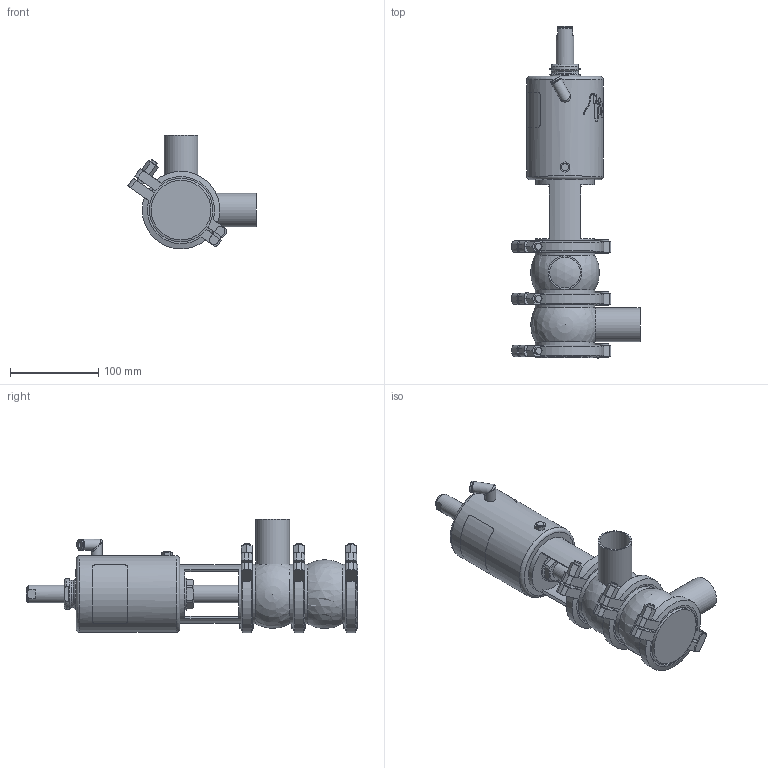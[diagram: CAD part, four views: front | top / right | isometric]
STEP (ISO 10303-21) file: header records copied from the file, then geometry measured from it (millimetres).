
FILE_DESCRIPTION (( 'STEP AP214' ), '1' );
FILE_NAME ('INNOVA M D W OD 1½ T1 AS NC_10.241.16.0010.STEP', '2024-08-07T07:57:20', ( '' ), ( '' ), 'SwSTEP 2.0', 'SolidWorks 2023', '' );
FILE_SCHEMA (( 'AUTOMOTIVE_DESIGN' ));
Length unit declared in the file: millimetre
Products named in the file (6): INNOVA M D W OD 1½ T1 AS NC_10.241.16.0010; 10.240.15.0006_OD 1½"; 10.240.15.0010_DN 040; 10.240.15.0001_DN 040; 10.240.15.0014_T1 AS P180; 10.241.15.0001_DIN 040
Assembly tree (8 placements, depth 2):
  INNOVA M D W OD 1½ T1 AS NC_10.241.16.0010
    10.240.15.0006_OD 1½"  x2
    10.240.15.0010_DN 040
    10.240.15.0014_T1 AS P180
    10.240.15.0001_DN 040  x3
    10.241.15.0001_DIN 040
Bounding box: 145.13 x 376.07 x 129 mm (x, y, z)
Volume: 1458215.1 mm3; surface area: 216231.7 mm2
Topology: 9 solids, 9 shells, 459 faces, 1207 edges, 786 vertices
Faces by surface type: plane 225, cylinder 110, bspline 80, cone 36, sphere 4, torus 4
Full cylindrical faces by diameter (mm): 6.15 x1, 8 x7, 8.5 x1, 10.5 x1, 12.5 x3, 16 x1, 20 x2, 31 x1, 34.5 x2, 34.8 x2, 36.5 x1, 38.1 x2, 66 x1, 67.5 x5, 79.5 x6, 87 x1
Entity records: 19282 total; most frequent: CARTESIAN_POINT 10173, ORIENTED_EDGE 1592, DIRECTION 1205, EDGE_CURVE 796, VERTEX_POINT 547, AXIS2_PLACEMENT_3D 458, EDGE_LOOP 399, FACE_OUTER_BOUND 360
